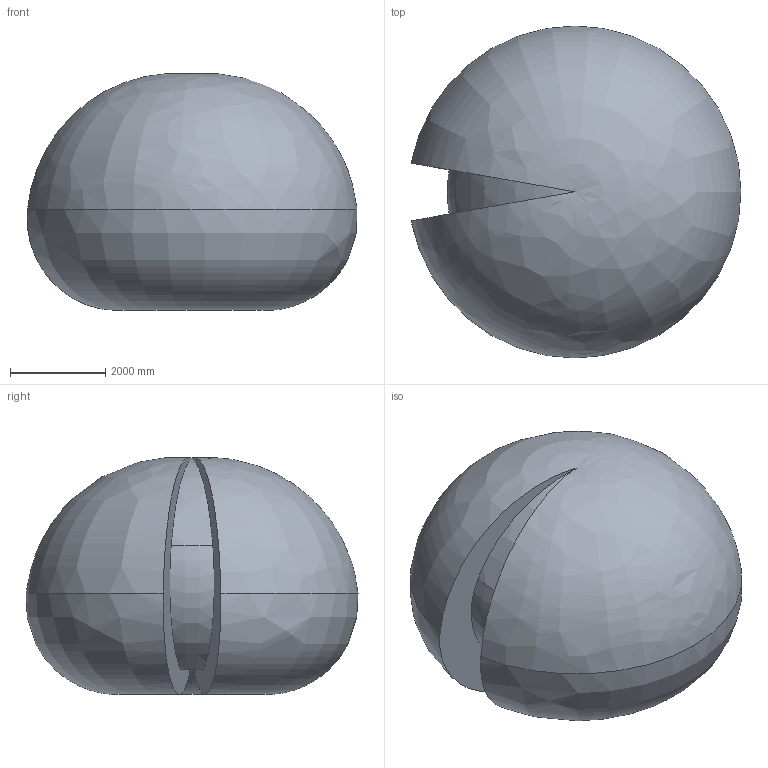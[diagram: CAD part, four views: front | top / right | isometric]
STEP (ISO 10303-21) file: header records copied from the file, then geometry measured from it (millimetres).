
FILE_DESCRIPTION (( 'STEP AP214' ), '1' );
FILE_NAME ('IRB6760_All-350_OC_00_Working-envelope.step', '2025-09-30T13:06:44', ( '' ), ( '' ), 'SwSTEP 2.0', 'SolidWorks 2024', '' );
FILE_SCHEMA (( 'AUTOMOTIVE_DESIGN' ));
Length unit declared in the file: millimetre
Products named in the file (1): IRB6760_All-350_OC_00_Working-envelope
Bounding box: 6942.95 x 6985.68 x 4982.92 mm (x, y, z)
Volume: 122495565998.1 mm3; surface area: 169082604.1 mm2
Topology: 1 solids, 1 shells, 16 faces, 46 edges, 24 vertices
Faces by surface type: bspline 10, plane 6
Entity records: 1570 total; most frequent: CARTESIAN_POINT 1262, ORIENTED_EDGE 76, EDGE_CURVE 38, DIRECTION 34, B_SPLINE_CURVE_WITH_KNOTS 28, VERTEX_POINT 24, AXIS2_PLACEMENT_3D 17, EDGE_LOOP 16
